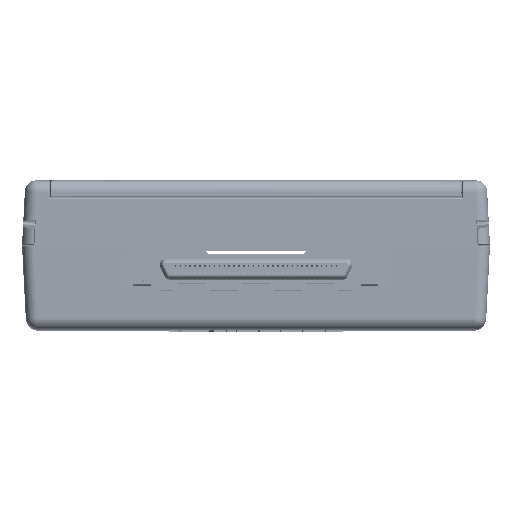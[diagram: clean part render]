
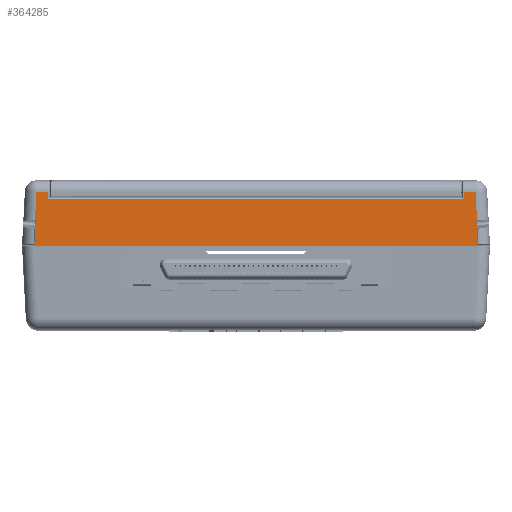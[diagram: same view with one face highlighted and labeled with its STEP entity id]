
A CAD part, top view. The second image highlights one B-rep face of the part: STEP entity #364285.
In plain terms, the highlighted planar face has unit normal (0, 0, 1).
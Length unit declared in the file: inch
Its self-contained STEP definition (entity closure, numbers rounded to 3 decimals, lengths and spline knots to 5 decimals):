
#20519 = FACE_OUTER_BOUND ( 'NONE', #128164, .T. ) ;
#27691 = EDGE_CURVE ( 'NONE', #448571, #344813, #54739, .T. ) ;
#29826 = VERTEX_POINT ( 'NONE', #417131 ) ;
#33653 = ORIENTED_EDGE ( 'NONE', *, *, #43462, .T. ) ;
#40267 = CARTESIAN_POINT ( 'NONE',  ( -2.8575, 0.84584, 0. ) ) ;
#43462 = EDGE_CURVE ( 'NONE', #94115, #448571, #414086, .T. ) ;
#54604 = EDGE_CURVE ( 'NONE', #270404, #429322, #439080, .T. ) ;
#54739 = LINE ( 'NONE', #103525, #371000 ) ;
#65034 = VECTOR ( 'NONE', #186978, 39.37008 ) ;
#77530 = ORIENTED_EDGE ( 'NONE', *, *, #492476, .T. ) ;
#83542 = VERTEX_POINT ( 'NONE', #487336 ) ;
#84242 = ORIENTED_EDGE ( 'NONE', *, *, #507362, .T. ) ;
#88249 = VECTOR ( 'NONE', #268455, 39.37008 ) ;
#94115 = VERTEX_POINT ( 'NONE', #313847 ) ;
#97509 = DIRECTION ( 'NONE',  ( 1., 0., 0. ) ) ;
#103525 = CARTESIAN_POINT ( 'NONE',  ( -0.1695, 0.543, 0. ) ) ;
#106279 = LINE ( 'NONE', #294068, #151820 ) ;
#110223 = VECTOR ( 'NONE', #350771, 39.37008 ) ;
#112631 = CARTESIAN_POINT ( 'NONE',  ( -2.93835, 0.7081, 0. ) ) ;
#116559 = VECTOR ( 'NONE', #411818, 39.37008 ) ;
#116771 = CARTESIAN_POINT ( 'NONE',  ( -0.08, 0.543, 0. ) ) ;
#128164 = EDGE_LOOP ( 'NONE', ( #370154, #224586, #512724, #84242, #129365, #260343, #487174, #249515, #229368, #188073, #77530, #33653 ) ) ;
#128264 = VECTOR ( 'NONE', #500091, 39.37008 ) ;
#129365 = ORIENTED_EDGE ( 'NONE', *, *, #377827, .T. ) ;
#137496 = DIRECTION ( 'NONE',  ( 0., 0., -1. ) ) ;
#146794 = CARTESIAN_POINT ( 'NONE',  ( -0.1795, 0.8915, 0. ) ) ;
#151820 = VECTOR ( 'NONE', #204031, 39.37008 ) ;
#175466 = VECTOR ( 'NONE', #226129, 39.37008 ) ;
#177174 = PLANE ( 'NONE',  #315006 ) ;
#186978 = DIRECTION ( 'NONE',  ( 1., 0., 0. ) ) ;
#188073 = ORIENTED_EDGE ( 'NONE', *, *, #527591, .T. ) ;
#194578 = EDGE_CURVE ( 'NONE', #344813, #347802, #490638, .T. ) ;
#196419 = EDGE_CURVE ( 'NONE', #347802, #29826, #106279, .T. ) ;
#204031 = DIRECTION ( 'NONE',  ( 0., 1., 0. ) ) ;
#215019 = CARTESIAN_POINT ( 'NONE',  ( -0.08376, 0.7081, 0. ) ) ;
#218678 = CARTESIAN_POINT ( 'NONE',  ( -2.94324, 0.7081, 0. ) ) ;
#221519 = CARTESIAN_POINT ( 'NONE',  ( -0.1695, 0.8915, 0. ) ) ;
#224586 = ORIENTED_EDGE ( 'NONE', *, *, #194578, .T. ) ;
#226129 = DIRECTION ( 'NONE',  ( -1., 0., 0. ) ) ;
#229368 = ORIENTED_EDGE ( 'NONE', *, *, #484271, .T. ) ;
#246223 = DIRECTION ( 'NONE',  ( -0.052, 0.999, 0. ) ) ;
#249515 = ORIENTED_EDGE ( 'NONE', *, *, #524639, .T. ) ;
#260343 = ORIENTED_EDGE ( 'NONE', *, *, #54604, .T. ) ;
#268150 = CARTESIAN_POINT ( 'NONE',  ( -3.027, 0.543, 0. ) ) ;
#268455 = DIRECTION ( 'NONE',  ( -1., 0., 0. ) ) ;
#270404 = VERTEX_POINT ( 'NONE', #218678 ) ;
#287075 = CARTESIAN_POINT ( 'NONE',  ( -2.947, 0.7081, 0. ) ) ;
#288382 = VERTEX_POINT ( 'NONE', #215019 ) ;
#289432 = LINE ( 'NONE', #416247, #360378 ) ;
#294068 = CARTESIAN_POINT ( 'NONE',  ( -2.8575, 0.543, 0. ) ) ;
#297366 = LINE ( 'NONE', #268150, #65034 ) ;
#297370 = LINE ( 'NONE', #441876, #349152 ) ;
#297929 = CARTESIAN_POINT ( 'NONE',  ( -3.027, 0.543, 0. ) ) ;
#313847 = CARTESIAN_POINT ( 'NONE',  ( -0.09337, 0.8915, 0. ) ) ;
#315006 = AXIS2_PLACEMENT_3D ( 'NONE', #297929, #137496, #464006 ) ;
#322900 = LINE ( 'NONE', #357874, #110223 ) ;
#344416 = CARTESIAN_POINT ( 'NONE',  ( -0.1695, 0.84584, 0. ) ) ;
#344813 = VERTEX_POINT ( 'NONE', #344416 ) ;
#347802 = VERTEX_POINT ( 'NONE', #361049 ) ;
#349152 = VECTOR ( 'NONE', #353588, 39.37008 ) ;
#350771 = DIRECTION ( 'NONE',  ( -0.052, 0.999, 0. ) ) ;
#351357 = CARTESIAN_POINT ( 'NONE',  ( -3.00481, 0.8915, 0. ) ) ;
#353588 = DIRECTION ( 'NONE',  ( -0.052, -0.999, 0. ) ) ;
#354632 = VERTEX_POINT ( 'NONE', #116771 ) ;
#357874 = CARTESIAN_POINT ( 'NONE',  ( -0.08, 0.543, 0. ) ) ;
#359985 = VERTEX_POINT ( 'NONE', #509295 ) ;
#360378 = VECTOR ( 'NONE', #367607, 39.37008 ) ;
#361049 = CARTESIAN_POINT ( 'NONE',  ( -2.8575, 0.84584, 0. ) ) ;
#364285 = ADVANCED_FACE ( 'NONE', ( #20519 ), #177174, .F. ) ;
#367607 = DIRECTION ( 'NONE',  ( 1., 0., 0. ) ) ;
#370154 = ORIENTED_EDGE ( 'NONE', *, *, #27691, .T. ) ;
#371000 = VECTOR ( 'NONE', #514706, 39.37008 ) ;
#372410 = CARTESIAN_POINT ( 'NONE',  ( -0.09709, 0.96257, 0. ) ) ;
#377827 = EDGE_CURVE ( 'NONE', #379772, #270404, #297370, .T. ) ;
#379772 = VERTEX_POINT ( 'NONE', #391200 ) ;
#391200 = CARTESIAN_POINT ( 'NONE',  ( -2.93363, 0.8915, 0. ) ) ;
#397200 = LINE ( 'NONE', #372410, #455117 ) ;
#411818 = DIRECTION ( 'NONE',  ( -1., 0., 0. ) ) ;
#411858 = EDGE_CURVE ( 'NONE', #429322, #83542, #502394, .T. ) ;
#414086 = LINE ( 'NONE', #146794, #175466 ) ;
#416247 = CARTESIAN_POINT ( 'NONE',  ( 0., 0.7081, 0. ) ) ;
#417131 = CARTESIAN_POINT ( 'NONE',  ( -2.8575, 0.8915, 0. ) ) ;
#417223 = CARTESIAN_POINT ( 'NONE',  ( -2.947, 0.543, 0. ) ) ;
#429322 = VERTEX_POINT ( 'NONE', #112631 ) ;
#439080 = LINE ( 'NONE', #287075, #484070 ) ;
#441876 = CARTESIAN_POINT ( 'NONE',  ( -2.94345, 0.70418, 0. ) ) ;
#448571 = VERTEX_POINT ( 'NONE', #221519 ) ;
#455117 = VECTOR ( 'NONE', #246223, 39.37008 ) ;
#456291 = LINE ( 'NONE', #351357, #88249 ) ;
#464006 = DIRECTION ( 'NONE',  ( -1., 0., 0. ) ) ;
#484070 = VECTOR ( 'NONE', #97509, 39.37008 ) ;
#484271 = EDGE_CURVE ( 'NONE', #354632, #359985, #322900, .T. ) ;
#487174 = ORIENTED_EDGE ( 'NONE', *, *, #411858, .T. ) ;
#487336 = CARTESIAN_POINT ( 'NONE',  ( -2.947, 0.543, 0. ) ) ;
#490638 = LINE ( 'NONE', #40267, #116559 ) ;
#492476 = EDGE_CURVE ( 'NONE', #288382, #94115, #397200, .T. ) ;
#500091 = DIRECTION ( 'NONE',  ( -0.052, -0.999, 0. ) ) ;
#502394 = LINE ( 'NONE', #417223, #128264 ) ;
#507362 = EDGE_CURVE ( 'NONE', #29826, #379772, #456291, .T. ) ;
#509295 = CARTESIAN_POINT ( 'NONE',  ( -0.08865, 0.7081, 0. ) ) ;
#512724 = ORIENTED_EDGE ( 'NONE', *, *, #196419, .T. ) ;
#514706 = DIRECTION ( 'NONE',  ( 0., -1., 0. ) ) ;
#524639 = EDGE_CURVE ( 'NONE', #83542, #354632, #297366, .T. ) ;
#527591 = EDGE_CURVE ( 'NONE', #359985, #288382, #289432, .T. ) ;
